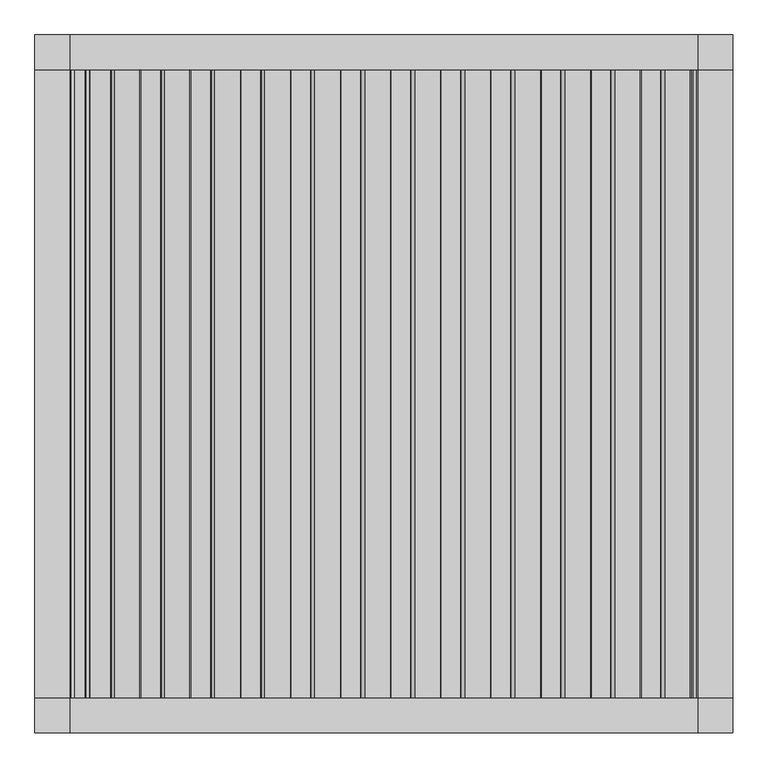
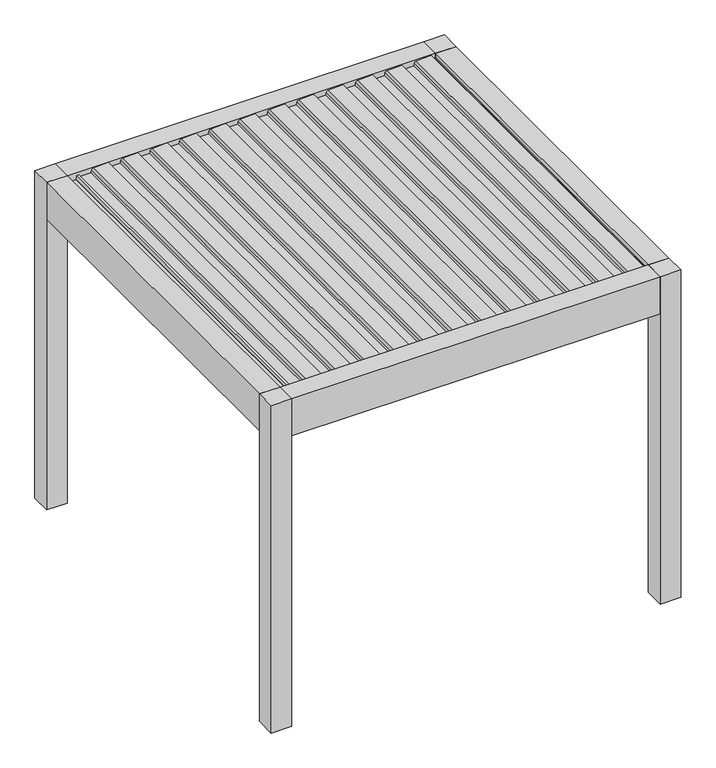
"""IFC4 building model written with IfcOpenShell, lengths in millimetres: proxy geometry, Renson_Amani_Patio_Cover : Renson_Amani_Patio_Cover."""

from ifc_helpers import new_model, si_unit, point, frame, frame_2d, origin, origin_with_axes, place, context, project, spatial, polyline, circle_curve, trimmed, segment, composite_curve, outline, extrude, source, transform, mapped, element, save


def generic_models_92a7e284(model_context):
    return source(origin(), model_context, "Body", "SweptSolid", [
        extrude(outline(composite_curve([segment(polyline([(2483.35, 1073.7289238), (2511.01198, 1076.1490335), (2512.3970364, 1104.984284), (2531.8911096, 1101.5469529), (2526.6075693, 991.549838)]), True, "CONTINUOUS"), segment(trimmed(circle_curve(frame_2d((2511.6248435, 992.26951)), 15.0), [point((2526.6075693, 991.549838))], [point((2514.2295662, 977.4973937))], False, "CARTESIAN"), True, "CONTINUOUS"), segment(polyline([(2514.2295662, 977.4973937), (2495.0, 974.1067023), (2495.0, 886.3709263), (2512.0788237, 883.3594689), (2511.3450182, 868.0824984), (2483.35, 865.6332517), (2483.35, 1073.7289238)]), True, "CONTINUOUS")], self_intersect=False)), frame((0.0, -1350.0, 0.0), z_axis=(0.0, 1.0, 0.0), x_axis=(0.0, 0.0, 1.0)), (0.0, 0.0, 1.0), 2700.0),
        extrude(outline(composite_curve([segment(polyline([(2483.35, 858.7132078), (2511.01198, 861.1333174), (2512.3970364, 889.9685679), (2531.8911096, 886.5312368), (2526.6075693, 776.534122)]), True, "CONTINUOUS"), segment(trimmed(circle_curve(frame_2d((2511.6248435, 777.2537939)), 15.0), [point((2526.6075693, 776.534122))], [point((2514.2295662, 762.4816776))], False, "CARTESIAN"), True, "CONTINUOUS"), segment(polyline([(2514.2295662, 762.4816776), (2495.0, 759.0909863), (2495.0, 671.3552102), (2512.0788237, 668.3437528), (2511.3450182, 653.0667824), (2483.35, 650.6175356), (2483.35, 858.7132078)]), True, "CONTINUOUS")], self_intersect=False)), frame((0.0, -1350.0, 0.0), z_axis=(0.0, 1.0, 0.0), x_axis=(0.0, 0.0, 1.0)), (0.0, 0.0, 1.0), 2700.0),
        extrude(outline(composite_curve([segment(polyline([(2483.35, 643.6974917), (2511.01198, 646.1176014), (2512.3970364, 674.9528519), (2531.8911096, 671.5155208), (2526.6075693, 561.5184059)]), True, "CONTINUOUS"), segment(trimmed(circle_curve(frame_2d((2511.6248435, 562.2380779)), 15.0), [point((2526.6075693, 561.5184059))], [point((2514.2295662, 547.4659616))], False, "CARTESIAN"), True, "CONTINUOUS"), segment(polyline([(2514.2295662, 547.4659616), (2495.0, 544.0752702), (2495.0, 456.3394942), (2512.0788237, 453.3280368), (2511.3450182, 438.0510663), (2483.35, 435.6018196), (2483.35, 643.6974917)]), True, "CONTINUOUS")], self_intersect=False)), frame((0.0, -1350.0, 0.0), z_axis=(0.0, 1.0, 0.0), x_axis=(0.0, 0.0, 1.0)), (0.0, 0.0, 1.0), 2700.0),
        extrude(outline(composite_curve([segment(polyline([(2483.35, 428.6817757), (2511.01198, 431.1018854), (2512.3970364, 459.9371358), (2531.8911096, 456.4998047), (2526.6075693, 346.5026899)]), True, "CONTINUOUS"), segment(trimmed(circle_curve(frame_2d((2511.6248435, 347.2223618)), 15.0), [point((2526.6075693, 346.5026899))], [point((2514.2295662, 332.4502455))], False, "CARTESIAN"), True, "CONTINUOUS"), segment(polyline([(2514.2295662, 332.4502455), (2495.0, 329.0595542), (2495.0, 241.3237782), (2512.0788237, 238.3123207), (2511.3450182, 223.0353503), (2483.35, 220.5861035), (2483.35, 428.6817757)]), True, "CONTINUOUS")], self_intersect=False)), frame((0.0, -1350.0, 0.0), z_axis=(0.0, 1.0, 0.0), x_axis=(0.0, 0.0, 1.0)), (0.0, 0.0, 1.0), 2700.0),
        extrude(outline(composite_curve([segment(polyline([(2483.35, 213.6660597), (2511.01198, 216.0861693), (2512.3970364, 244.9214198), (2531.8911096, 241.4840887), (2526.6075693, 131.4869738)]), True, "CONTINUOUS"), segment(trimmed(circle_curve(frame_2d((2511.6248435, 132.2066458)), 15.0), [point((2526.6075693, 131.4869738))], [point((2514.2295662, 117.4345295))], False, "CARTESIAN"), True, "CONTINUOUS"), segment(polyline([(2514.2295662, 117.4345295), (2495.0, 114.0438381), (2495.0, 26.3080621), (2512.0788237, 23.2966047), (2511.3450182, 8.0196342), (2483.35, 5.5703875), (2483.35, 213.6660597)]), True, "CONTINUOUS")], self_intersect=False)), frame((0.0, -1350.0, 0.0), z_axis=(0.0, 1.0, 0.0), x_axis=(0.0, 0.0, 1.0)), (0.0, 0.0, 1.0), 2700.0),
        extrude(outline(composite_curve([segment(polyline([(2483.35, -1.3496564), (2511.01198, 1.0704533), (2512.3970364, 29.9057037), (2531.8911096, 26.4683726), (2526.6075693, -83.5287422)]), True, "CONTINUOUS"), segment(trimmed(circle_curve(frame_2d((2511.6248435, -82.8090703)), 15.0), [point((2526.6075693, -83.5287422))], [point((2514.2295662, -97.5811866))], False, "CARTESIAN"), True, "CONTINUOUS"), segment(polyline([(2514.2295662, -97.5811866), (2495.0, -100.9718779), (2495.0, -188.7076539), (2512.0788237, -191.7191114), (2511.3450182, -206.9960818), (2483.35, -209.4453286), (2483.35, -1.3496564)]), True, "CONTINUOUS")], self_intersect=False)), frame((0.0, -1350.0, 0.0), z_axis=(0.0, 1.0, 0.0), x_axis=(0.0, 0.0, 1.0)), (0.0, 0.0, 1.0), 2700.0),
        extrude(outline(composite_curve([segment(polyline([(2483.35, -216.3653724), (2511.01198, -213.9452628), (2512.3970364, -185.1100123), (2531.8911096, -188.5473434), (2526.6075693, -298.5444582)]), True, "CONTINUOUS"), segment(trimmed(circle_curve(frame_2d((2511.6248435, -297.8247863)), 15.0), [point((2526.6075693, -298.5444582))], [point((2514.2295662, -312.5969026))], False, "CARTESIAN"), True, "CONTINUOUS"), segment(polyline([(2514.2295662, -312.5969026), (2495.0, -315.987594), (2495.0, -403.72337), (2512.0788237, -406.7348274), (2511.3450182, -422.0117979), (2483.35, -424.4610446), (2483.35, -216.3653724)]), True, "CONTINUOUS")], self_intersect=False)), frame((0.0, -1350.0, 0.0), z_axis=(0.0, 1.0, 0.0), x_axis=(0.0, 0.0, 1.0)), (0.0, 0.0, 1.0), 2700.0),
        extrude(outline(composite_curve([segment(polyline([(2483.35, -431.3810885), (2511.01198, -428.9609788), (2512.3970364, -400.1257284), (2531.8911096, -403.5630594), (2526.6075693, -513.5601743)]), True, "CONTINUOUS"), segment(trimmed(circle_curve(frame_2d((2511.6248435, -512.8405024)), 15.0), [point((2526.6075693, -513.5601743))], [point((2514.2295662, -527.6126187))], False, "CARTESIAN"), True, "CONTINUOUS"), segment(polyline([(2514.2295662, -527.6126187), (2495.0, -531.00331), (2495.0, -618.739086), (2512.0788237, -621.7505434), (2511.3450182, -637.0275139), (2483.35, -639.4767606), (2483.35, -431.3810885)]), True, "CONTINUOUS")], self_intersect=False)), frame((0.0, -1350.0, 0.0), z_axis=(0.0, 1.0, 0.0), x_axis=(0.0, 0.0, 1.0)), (0.0, 0.0, 1.0), 2700.0),
        extrude(outline(composite_curve([segment(polyline([(2483.35, -646.3968045), (2511.01198, -643.9766949), (2512.3970364, -615.1414444), (2531.8911096, -618.5787755), (2526.6075693, -728.5758903)]), True, "CONTINUOUS"), segment(trimmed(circle_curve(frame_2d((2511.6248435, -727.8562184)), 15.0), [point((2526.6075693, -728.5758903))], [point((2514.2295662, -742.6283347))], False, "CARTESIAN"), True, "CONTINUOUS"), segment(polyline([(2514.2295662, -742.6283347), (2495.0, -746.019026), (2495.0, -833.7548021), (2512.0788237, -836.7662595), (2511.3450182, -852.04323), (2483.35, -854.4924767), (2483.35, -646.3968045)]), True, "CONTINUOUS")], self_intersect=False)), frame((0.0, -1350.0, 0.0), z_axis=(0.0, 1.0, 0.0), x_axis=(0.0, 0.0, 1.0)), (0.0, 0.0, 1.0), 2700.0),
        extrude(outline(composite_curve([segment(polyline([(2483.35, -861.4125206), (2511.01198, -858.9924109), (2512.3970364, -830.1571605), (2531.8911096, -833.5944915), (2526.6075693, -943.5916064)]), True, "CONTINUOUS"), segment(trimmed(circle_curve(frame_2d((2511.6248435, -942.8719345)), 15.0), [point((2526.6075693, -943.5916064))], [point((2514.2295662, -957.6440508))], False, "CARTESIAN"), True, "CONTINUOUS"), segment(polyline([(2514.2295662, -957.6440508), (2495.0, -961.0347421), (2495.0, -1048.7705181), (2512.0788237, -1051.7819755), (2511.3450182, -1067.058946), (2483.35, -1069.5081927), (2483.35, -861.4125206)]), True, "CONTINUOUS")], self_intersect=False)), frame((0.0, -1350.0, 0.0), z_axis=(0.0, 1.0, 0.0), x_axis=(0.0, 0.0, 1.0)), (0.0, 0.0, 1.0), 2700.0),
        extrude(outline(composite_curve([segment(polyline([(2483.35, 1288.7446399), (2511.01198, 1291.1647495), (2512.3970364, 1320.0), (2531.8911096, 1316.5626689), (2526.6075693, 1206.5655541)]), True, "CONTINUOUS"), segment(trimmed(circle_curve(frame_2d((2511.6248435, 1207.285226)), 15.0), [point((2526.6075693, 1206.5655541))], [point((2514.2295662, 1192.5131097))], False, "CARTESIAN"), True, "CONTINUOUS"), segment(polyline([(2514.2295662, 1192.5131097), (2495.0, 1189.1224184), (2495.0, 1101.3866423), (2512.0788237, 1098.3751849), (2511.3450182, 1083.0982144), (2483.35, 1080.6489677), (2483.35, 1288.7446399)]), True, "CONTINUOUS")], self_intersect=False)), frame((0.0, -1350.0, 0.0), z_axis=(0.0, 1.0, 0.0), x_axis=(0.0, 0.0, 1.0)), (0.0, 0.0, 1.0), 2700.0),
        extrude(outline(composite_curve([segment(polyline([(2483.35, -1076.4282366), (2511.01198, -1074.008127), (2512.3970364, -1045.1728765), (2531.8911096, -1048.6102076), (2526.6075693, -1158.6073224)]), True, "CONTINUOUS"), segment(trimmed(circle_curve(frame_2d((2511.6248435, -1157.8876505)), 15.0), [point((2526.6075693, -1158.6073224))], [point((2514.2295662, -1172.6597668))], False, "CARTESIAN"), True, "CONTINUOUS"), segment(polyline([(2514.2295662, -1172.6597668), (2495.0, -1176.0504581), (2495.0, -1263.7862342), (2512.0788237, -1266.7976916), (2511.3450182, -1282.0746621), (2483.35, -1284.5239088), (2483.35, -1076.4282366)]), True, "CONTINUOUS")], self_intersect=False)), frame((0.0, -1350.0, 0.0), z_axis=(0.0, 1.0, 0.0), x_axis=(0.0, 0.0, 1.0)), (0.0, 0.0, 1.0), 2700.0),
        extrude(outline(polyline([(1500.0, 1500.0), (1500.0, 1350.0), (1350.0, 1350.0), (1350.0, 1500.0), (1500.0, 1500.0)])), frame((0.0, 0.0, 2250.0), z_axis=(0.0, 0.0, 1.0), x_axis=(1.0, 0.0, 0.0)), (0.0, 0.0, 1.0), 285.0),
        extrude(outline(polyline([(1500.0, -1350.0), (1500.0, -1500.0), (1350.0, -1500.0), (1350.0, -1350.0), (1500.0, -1350.0)])), origin_with_axes(), (0.0, 0.0, 1.0), 2535.0),
        extrude(outline(polyline([(-1350.0, 1350.0), (-1500.0, 1350.0), (-1500.0, 1500.0), (-1350.0, 1500.0), (-1350.0, 1350.0)])), origin_with_axes(), (0.0, 0.0, 1.0), 2535.0),
        extrude(outline(polyline([(-1350.0, -1350.0), (-1350.0, -1500.0), (-1500.0, -1500.0), (-1500.0, -1350.0), (-1350.0, -1350.0)])), origin_with_axes(), (0.0, 0.0, 1.0), 2535.0),
        extrude(outline(polyline([(2466.6559373, -1350.0), (2466.6559373, -1290.0), (2480.6555802, -1286.2487113), (2480.6555802, -1329.5940945), (2496.400763, -1345.0), (2504.2449277, -1345.0), (2504.6823598, -1350.0), (2466.6559373, -1350.0)])), frame((0.0, -1350.0, 0.0), z_axis=(0.0, 1.0, 0.0), x_axis=(0.0, 0.0, 1.0)), (0.0, 0.0, 1.0), 2700.0),
        extrude(outline(polyline([(-1350.0, -1350.0), (-1500.0, -1350.0), (-1500.0, 1350.0), (-1350.0, 1350.0), (-1350.0, -1350.0)])), frame((0.0, 0.0, 2250.0), z_axis=(0.0, 0.0, 1.0), x_axis=(1.0, 0.0, 0.0)), (0.0, 0.0, 1.0), 285.0),
        extrude(outline(polyline([(2535.0, 1500.0), (2535.0, 1350.0), (2504.6904658, 1350.0), (2504.2449277, 1345.0), (2496.400763, 1345.0), (2480.6555802, 1329.2544156), (2480.6555802, 1319.9090324), (2466.6559373, 1323.6603211), (2466.6559373, 1350.0), (2250.0, 1350.0), (2250.0, 1500.0), (2535.0, 1500.0)])), frame((0.0, -1350.0, 0.0), z_axis=(0.0, 1.0, 0.0), x_axis=(0.0, 0.0, 1.0)), (0.0, 0.0, 1.0), 2700.0),
        extrude(outline(polyline([(-1350.0, 2535.0), (-1350.0, 2322.0), (-1280.0000001, 2322.0), (-1280.0000001, 2250.0), (-1500.0, 2250.0), (-1500.0, 2535.0), (-1350.0, 2535.0)])), frame((-1350.0, 0.0, 0.0), z_axis=(1.0, 0.0, 0.0), x_axis=(0.0, 1.0, 0.0)), (0.0, 0.0, 1.0), 2700.0),
        extrude(outline(polyline([(1500.0, 2250.0), (1280.0000001, 2250.0), (1280.0000001, 2322.0), (1350.0, 2322.0), (1350.0, 2535.0), (1500.0, 2535.0), (1500.0, 2250.0)])), frame((-1350.0, 0.0, 0.0), z_axis=(1.0, 0.0, 0.0), x_axis=(0.0, 1.0, 0.0)), (0.0, 0.0, 1.0), 2700.0),
    ])


if __name__ == "__main__":
    model = new_model("IFC4")
    model_context = context("Model", 3, world=origin())
    ifc_project = project(units=[si_unit("LENGTHUNIT", "METRE", prefix="MILLI")], contexts=[model_context])
    site = spatial("IfcSite", under=ifc_project)
    building = spatial("IfcBuilding", under=site)
    placement = place(None, origin())
    generic_models_shape = generic_models_92a7e284(model_context)
    element("IfcBuildingElementProxy", 1, Name="Renson_Amani_Patio_Cover : Renson_Amani_Patio_Cover", ObjectType="Renson_Amani_Patio_Cover : Renson_Amani_Patio_Cover", at=placement, inside=building, context=model_context, shape_type="MappedRepresentation", body=[
        mapped(generic_models_shape, transform((0.0, 0.0, 0.0), x_axis=(1.0, 0.0, 0.0), y_axis=(0.0, 1.0, 0.0), z_axis=(0.0, 0.0, 1.0))),
    ])
    save(model, "model.ifc")
